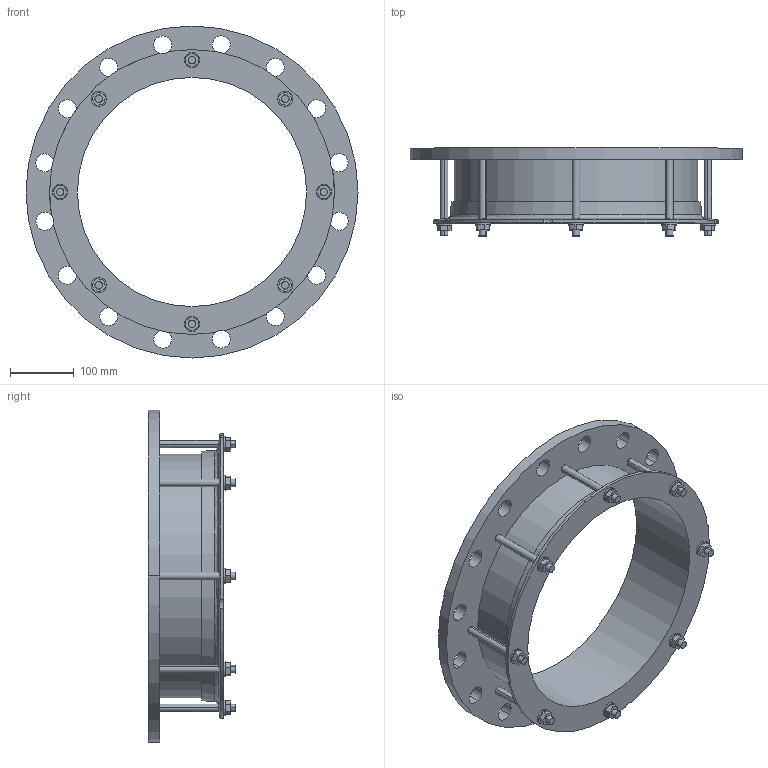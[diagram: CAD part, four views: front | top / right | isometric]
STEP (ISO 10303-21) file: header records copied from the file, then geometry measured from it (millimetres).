
FILE_DESCRIPTION((''),'2;1');
FILE_NAME('355X350PN16_4NOT','2019-01-16T',('mfairey'),('Glynwed Pipe Systems'),'CREO PARAMETRIC BY PTC INC, 2016130','CREO PARAMETRIC BY PTC INC, 2016130','');
FILE_SCHEMA(('CONFIG_CONTROL_DESIGN'));
Length unit declared in the file: millimetre
Products named in the file (1): 355X350PN16_4NOT
Bounding box: 520 x 137.45 x 520 mm (x, y, z)
Volume: 3687589 mm3; surface area: 622362.6 mm2
Topology: 1 solids, 1 shells, 176 faces, 466 edges, 310 vertices
Faces by surface type: cylinder 94, plane 76, cone 4, torus 2
Entity records: 6094 total; most frequent: CARTESIAN_POINT 1470, DIRECTION 962, ORIENTED_EDGE 932, EDGE_CURVE 466, AXIS2_PLACEMENT_3D 360, VERTEX_POINT 310, EDGE_LOOP 244, VECTOR 242
